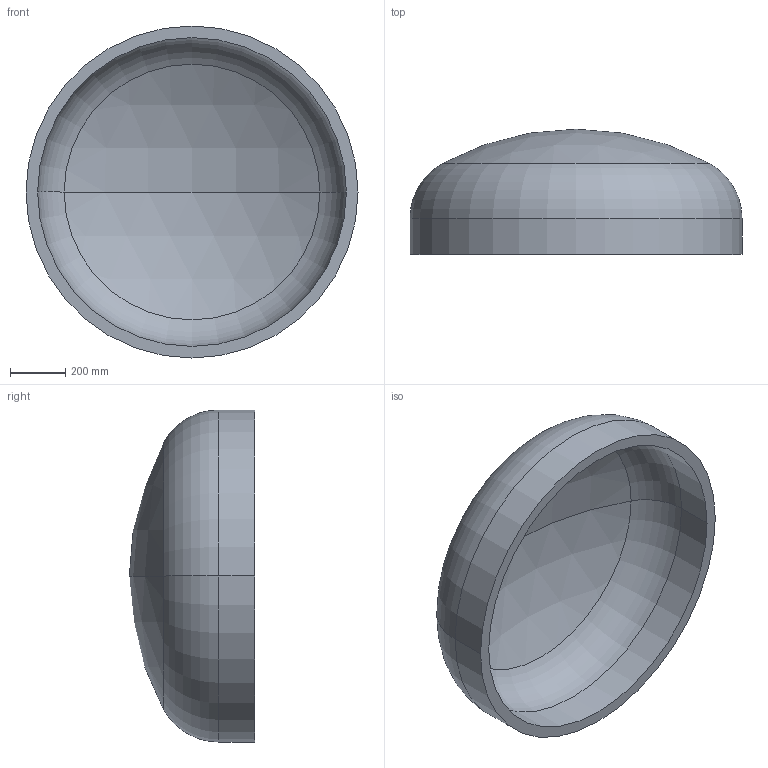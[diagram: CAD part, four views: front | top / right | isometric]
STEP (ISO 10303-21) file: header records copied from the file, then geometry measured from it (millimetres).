
FILE_DESCRIPTION (( 'STEP AP203' ), '1' );
FILE_NAME ('DIN 28013 Korbbogenform_-_Boden DIN 28013 - 1200 x 130 - I - s=42.step', '2016-07-01T09:28:58', ( '' ), ( '' ), 'SwSTEP 2.0', 'SolidWorks 2013', '' );
FILE_SCHEMA (( 'CONFIG_CONTROL_DESIGN' ));
Length unit declared in the file: millimetre
Products named in the file (1): DIN 28013 Korbbogenform_-_Boden DIN 28013 - 1200 x 130 - I - s=42
Bounding box: 1200 x 452.67 x 1200 mm (x, y, z)
Volume: 82736445.6 mm3; surface area: 4096318.7 mm2
Topology: 1 solids, 1 shells, 13 faces, 24 edges, 14 vertices
Faces by surface type: torus 4, cylinder 4, sphere 4, plane 1
Entity records: 407 total; most frequent: DIRECTION 72, CARTESIAN_POINT 52, ORIENTED_EDGE 48, AXIS2_PLACEMENT_3D 34, EDGE_CURVE 24, CIRCLE 20, EDGE_LOOP 14, VERTEX_POINT 14
